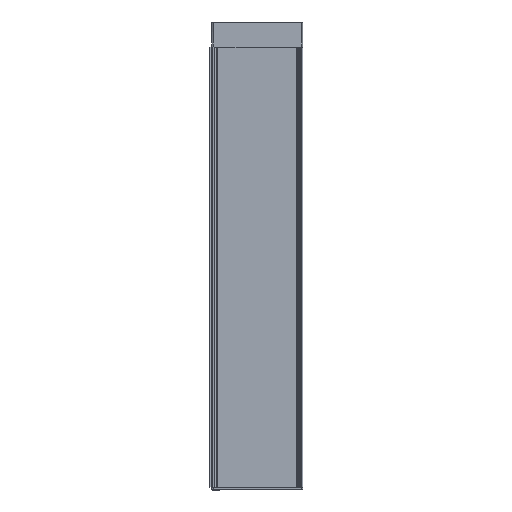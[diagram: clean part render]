
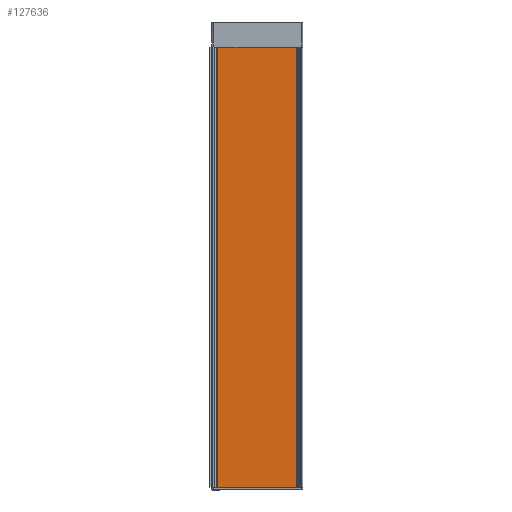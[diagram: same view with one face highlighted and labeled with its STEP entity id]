
A CAD part, front view. The second image highlights one B-rep face of the part: STEP entity #127636.
In plain terms, the highlighted planar face has unit normal (0, -1, 0).
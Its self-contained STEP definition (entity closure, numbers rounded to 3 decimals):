
#3649 = LINE ( 'NONE', #37848, #29554 ) ;
#7584 = EDGE_CURVE ( 'NONE', #49827, #87457, #147565, .T. ) ;
#12843 = DIRECTION ( 'NONE',  ( 1., 0., 0. ) ) ;
#12984 = CARTESIAN_POINT ( 'NONE',  ( 0., -12.75, 0. ) ) ;
#24286 = LINE ( 'NONE', #12984, #121768 ) ;
#24431 = LINE ( 'NONE', #112971, #38289 ) ;
#25962 = EDGE_LOOP ( 'NONE', ( #127631, #127645, #28874, #58888 ) ) ;
#26344 = DIRECTION ( 'NONE',  ( -1., 0., 0. ) ) ;
#28874 = ORIENTED_EDGE ( 'NONE', *, *, #123296, .T. ) ;
#29554 = VECTOR ( 'NONE', #12843, 1000. ) ;
#35382 = CARTESIAN_POINT ( 'NONE',  ( -29.878, -12.75, -333. ) ) ;
#35408 = EDGE_CURVE ( 'NONE', #100853, #95403, #24431, .T. ) ;
#37848 = CARTESIAN_POINT ( 'NONE',  ( 0., -12.75, -333. ) ) ;
#38289 = VECTOR ( 'NONE', #76863, 1000. ) ;
#38838 = DIRECTION ( 'NONE',  ( 1., 0., 0. ) ) ;
#49827 = VERTEX_POINT ( 'NONE', #134103 ) ;
#50505 = CARTESIAN_POINT ( 'NONE',  ( 29.878, -12.75, -333. ) ) ;
#58888 = ORIENTED_EDGE ( 'NONE', *, *, #7584, .T. ) ;
#64439 = CARTESIAN_POINT ( 'NONE',  ( 0., -12.75, -333. ) ) ;
#74363 = AXIS2_PLACEMENT_3D ( 'NONE', #64439, #90569, #38838 ) ;
#76116 = PLANE ( 'NONE',  #74363 ) ;
#76863 = DIRECTION ( 'NONE',  ( 0., 0., -1. ) ) ;
#87457 = VERTEX_POINT ( 'NONE', #135020 ) ;
#88618 = CARTESIAN_POINT ( 'NONE',  ( -29.878, -12.75, 0. ) ) ;
#90569 = DIRECTION ( 'NONE',  ( 0., -1., 0. ) ) ;
#91000 = EDGE_CURVE ( 'NONE', #87457, #100853, #24286, .T. ) ;
#95403 = VERTEX_POINT ( 'NONE', #35382 ) ;
#100853 = VERTEX_POINT ( 'NONE', #88618 ) ;
#112971 = CARTESIAN_POINT ( 'NONE',  ( -29.878, -12.75, -333. ) ) ;
#121768 = VECTOR ( 'NONE', #26344, 1000. ) ;
#123296 = EDGE_CURVE ( 'NONE', #95403, #49827, #3649, .T. ) ;
#127631 = ORIENTED_EDGE ( 'NONE', *, *, #91000, .T. ) ;
#127636 = ADVANCED_FACE ( 'NONE', ( #139517 ), #76116, .T. ) ;
#127645 = ORIENTED_EDGE ( 'NONE', *, *, #35408, .T. ) ;
#127679 = VECTOR ( 'NONE', #139589, 1000. ) ;
#134103 = CARTESIAN_POINT ( 'NONE',  ( 29.878, -12.75, -333. ) ) ;
#135020 = CARTESIAN_POINT ( 'NONE',  ( 29.878, -12.75, 0. ) ) ;
#139517 = FACE_OUTER_BOUND ( 'NONE', #25962, .T. ) ;
#139589 = DIRECTION ( 'NONE',  ( 0., 0., 1. ) ) ;
#147565 = LINE ( 'NONE', #50505, #127679 ) ;
